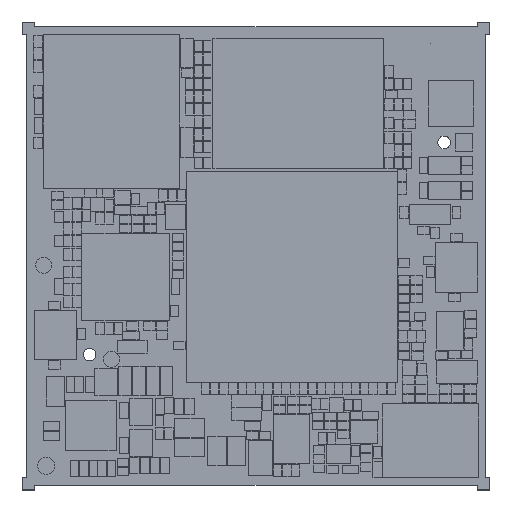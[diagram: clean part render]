
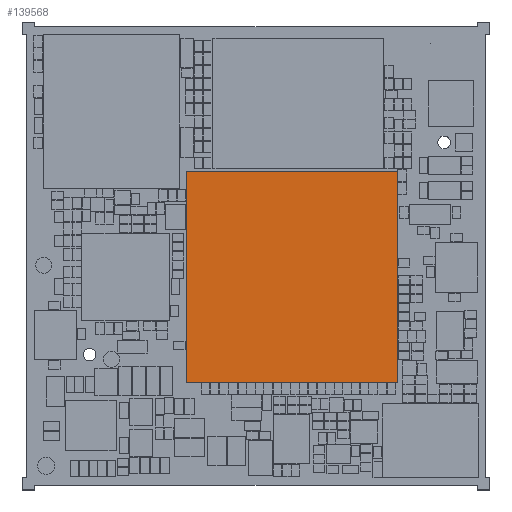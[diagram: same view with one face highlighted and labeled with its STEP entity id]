
A CAD part, top view. The second image highlights one B-rep face of the part: STEP entity #139568.
In plain terms, the highlighted planar face has unit normal (0, 0, 1).
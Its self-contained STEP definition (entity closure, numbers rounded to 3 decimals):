
#3748 = DIRECTION ( 'NONE',  ( 0., -1., 0. ) ) ;
#5963 = DIRECTION ( 'NONE',  ( -1., 0., 0. ) ) ;
#8297 = CARTESIAN_POINT ( 'NONE',  ( 14.3, 9.4, 2.556 ) ) ;
#17747 = FACE_OUTER_BOUND ( 'NONE', #57876, .T. ) ;
#20647 = LINE ( 'NONE', #30336, #79642 ) ;
#28727 = VERTEX_POINT ( 'NONE', #45723 ) ;
#29854 = DIRECTION ( 'NONE',  ( 0., 0., 1. ) ) ;
#30336 = CARTESIAN_POINT ( 'NONE',  ( 14.3, 9.4, 2.556 ) ) ;
#31120 = VERTEX_POINT ( 'NONE', #8297 ) ;
#37801 = ORIENTED_EDGE ( 'NONE', *, *, #148513, .T. ) ;
#40110 = LINE ( 'NONE', #102478, #82011 ) ;
#44424 = LINE ( 'NONE', #129388, #139539 ) ;
#45723 = CARTESIAN_POINT ( 'NONE',  ( 14.3, 27.8, 2.556 ) ) ;
#53049 = CARTESIAN_POINT ( 'NONE',  ( 0., 0., 2.556 ) ) ;
#56217 = EDGE_CURVE ( 'NONE', #94669, #28727, #44424, .T. ) ;
#57876 = EDGE_LOOP ( 'NONE', ( #37801, #118624, #123875, #157555 ) ) ;
#66396 = CARTESIAN_POINT ( 'NONE',  ( 32.7, 9.4, 2.556 ) ) ;
#71552 = EDGE_CURVE ( 'NONE', #94219, #94669, #40110, .T. ) ;
#76023 = DIRECTION ( 'NONE',  ( 0., 1., 0. ) ) ;
#78781 = AXIS2_PLACEMENT_3D ( 'NONE', #53049, #29854, #112448 ) ;
#79642 = VECTOR ( 'NONE', #79894, 1000. ) ;
#79894 = DIRECTION ( 'NONE',  ( 1., 0., 0. ) ) ;
#81456 = VECTOR ( 'NONE', #3748, 1000. ) ;
#82011 = VECTOR ( 'NONE', #76023, 1000. ) ;
#94219 = VERTEX_POINT ( 'NONE', #66396 ) ;
#94669 = VERTEX_POINT ( 'NONE', #117930 ) ;
#101525 = LINE ( 'NONE', #149734, #81456 ) ;
#102478 = CARTESIAN_POINT ( 'NONE',  ( 32.7, 9.4, 2.556 ) ) ;
#112448 = DIRECTION ( 'NONE',  ( 1., 0., 0. ) ) ;
#117930 = CARTESIAN_POINT ( 'NONE',  ( 32.7, 27.8, 2.556 ) ) ;
#118624 = ORIENTED_EDGE ( 'NONE', *, *, #71552, .T. ) ;
#123875 = ORIENTED_EDGE ( 'NONE', *, *, #56217, .T. ) ;
#126869 = PLANE ( 'NONE',  #78781 ) ;
#129388 = CARTESIAN_POINT ( 'NONE',  ( 32.7, 27.8, 2.556 ) ) ;
#130888 = EDGE_CURVE ( 'NONE', #28727, #31120, #101525, .T. ) ;
#139539 = VECTOR ( 'NONE', #5963, 1000. ) ;
#139568 = ADVANCED_FACE ( 'NONE', ( #17747 ), #126869, .T. ) ;
#148513 = EDGE_CURVE ( 'NONE', #31120, #94219, #20647, .T. ) ;
#149734 = CARTESIAN_POINT ( 'NONE',  ( 14.3, 27.8, 2.556 ) ) ;
#157555 = ORIENTED_EDGE ( 'NONE', *, *, #130888, .T. ) ;
